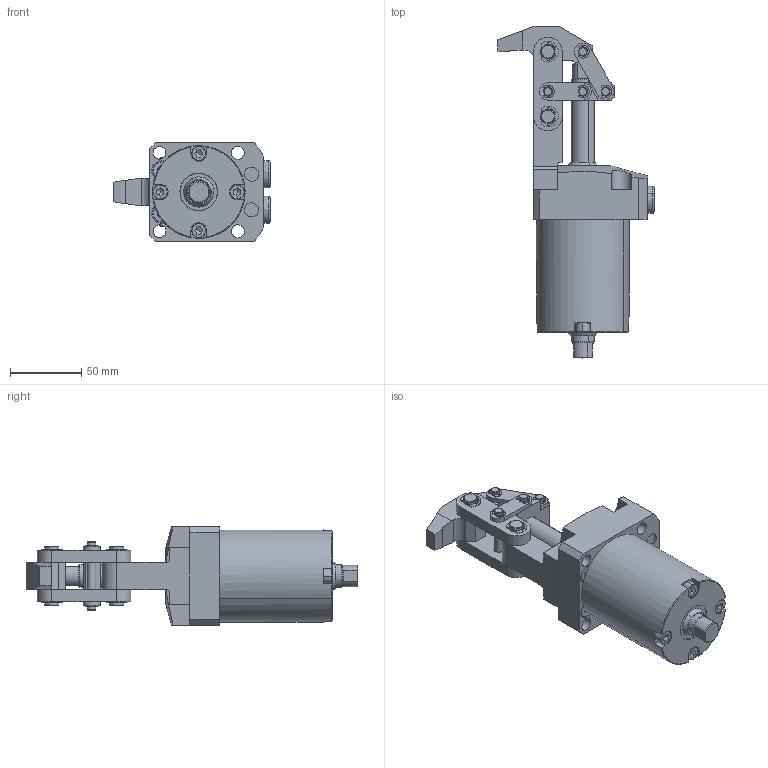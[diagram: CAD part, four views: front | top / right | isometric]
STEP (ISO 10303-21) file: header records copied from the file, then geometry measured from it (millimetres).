
FILE_DESCRIPTION(('CATIA V5 STEP Exchange'),'2;1');
FILE_NAME('\\kjf-102\KJF_TC\Hydraulic_Clamp\Standard\HINGE_CLAMP\MLC-4065G_-\배포도면\MLC-4065GD_A.stp','2026-03-16T02:32:57+00:00',('none'),('none'),'CATIA Version 5 Release 19 SP 9 (IN-10)','CATIA V5 STEP AP203','none');
FILE_SCHEMA(('CONFIG_CONTROL_DESIGN'));
Length unit declared in the file: millimetre
Products named in the file (1): MLC-4065GD_A
Assembly tree (40 placements, depth 2):
  MLC-4065GD_A
    #58
    #1789
    #3222
    #5277
    #6035
    #7073  x2
    #7746  x2
    #8066  x2
    #8386
    #9372  x2
    #9856  x2
    #10340  x2
    #10824  x2
    #11150  x2
    #12043  x4
    #12966  x2
    #14372  x4
    #15222  x8
Bounding box: 109.5 x 233 x 69 mm (x, y, z)
Volume: 461203.2 mm3; surface area: 131286.7 mm2
Topology: 40 solids, 40 shells, 1067 faces, 2572 edges, 1651 vertices
Faces by surface type: cylinder 486, plane 371, cone 161, torus 42, bspline 4, extrusion 3
Entity records: 15929 total; most frequent: CARTESIAN_POINT 3478, ORIENTED_EDGE 2576, DIRECTION 2124, EDGE_CURVE 1288, AXIS2_PLACEMENT_3D 1059, VERTEX_POINT 822, EDGE_LOOP 646, VECTOR 604
